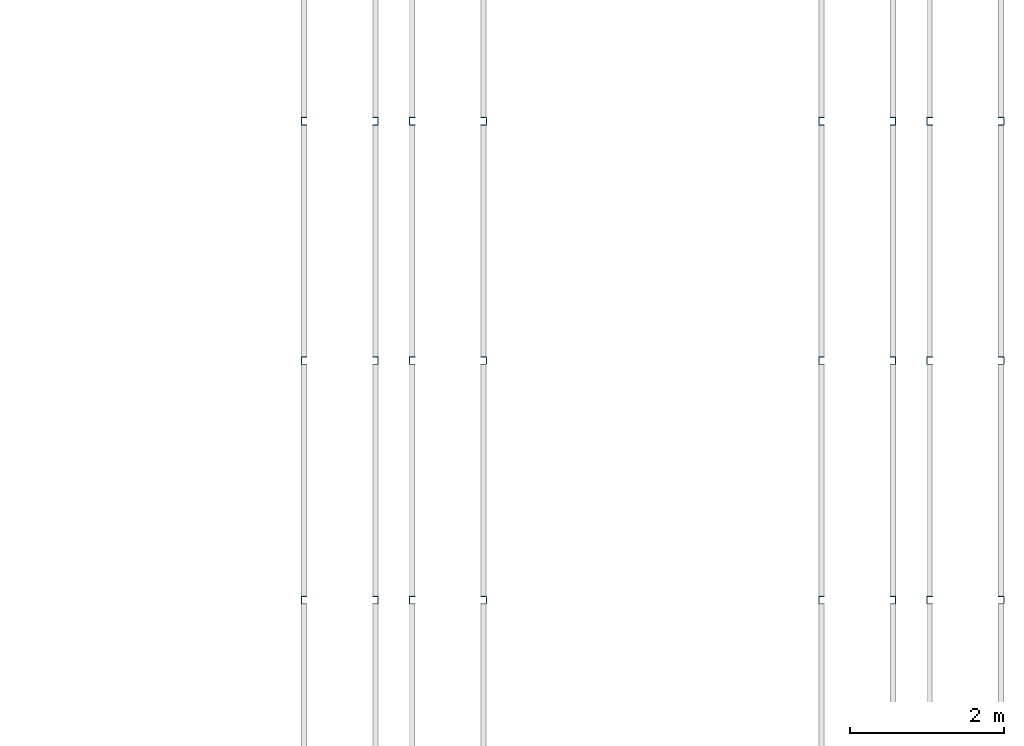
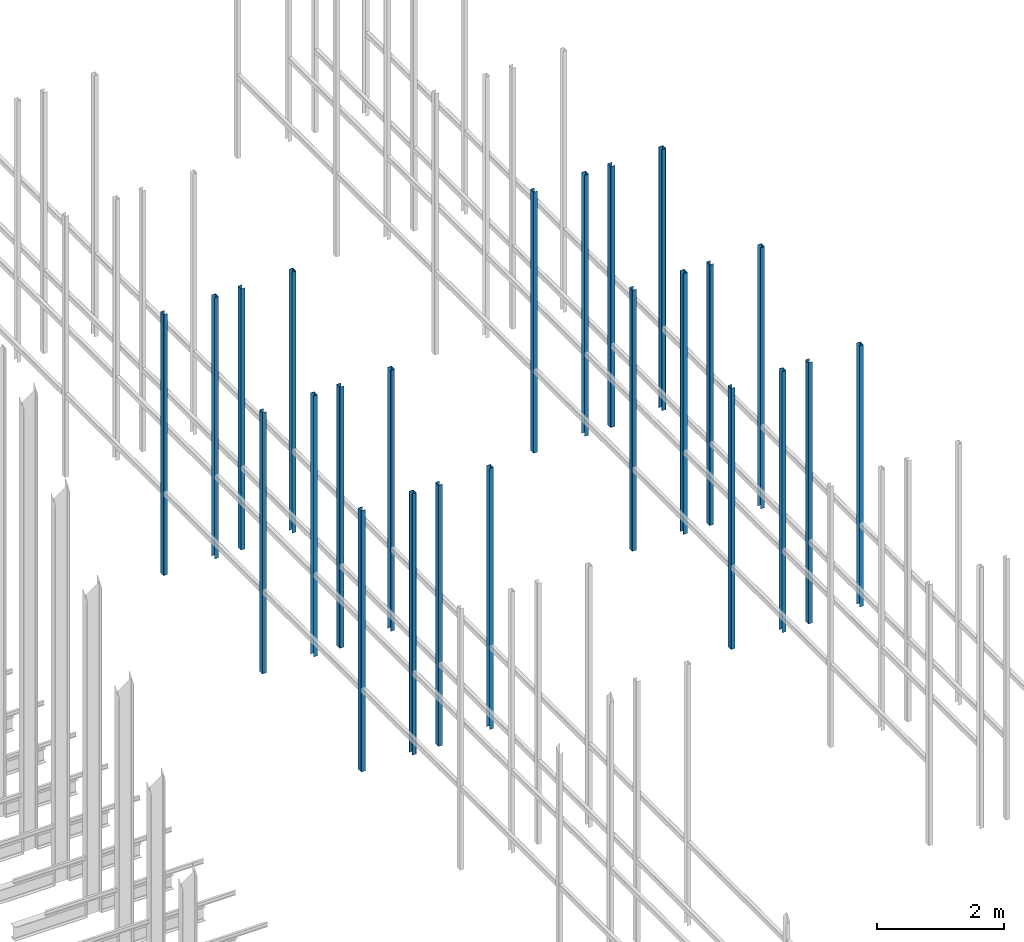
# One storey, part 61 of 302: 24 columns.
"""IFC2X3 building model written with IfcOpenShell, lengths in metres."""

from ifc_helpers import new_model, entity, si_unit, converted_unit, derived_unit, direction, frame, frame_2d, origin, place, context, subcontext, project, spatial, polyline, circle_curve, parameter, trimmed, segment, composite_curve, outline, extrude, source, transform, mapped, material, type_object, type_shapes, element, save


model = new_model("IFC2X3")

# Units and contexts
model_context = context("Model", 3, precision=1e-05, world=origin(), true_north=direction((6.12303176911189e-17, 1.0)))
body_context = subcontext(model_context, "Body", "Model", "MODEL_VIEW")
ifc_project = project(units=[si_unit("LENGTHUNIT", "METRE"), si_unit("AREAUNIT", "SQUARE_METRE"), si_unit("VOLUMEUNIT", "CUBIC_METRE"), converted_unit("PLANEANGLEUNIT", "DEGREE", entity("IfcRatioMeasure", 0.0174532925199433), si_unit("PLANEANGLEUNIT", "RADIAN"), dimensions=[0, 0, 0, 0, 0, 0, 0]), si_unit("MASSUNIT", "GRAM", prefix="KILO"), derived_unit("MASSDENSITYUNIT", [(si_unit("MASSUNIT", "GRAM", prefix="KILO"), 1), (si_unit("LENGTHUNIT", "METRE"), -3)]), derived_unit("MOMENTOFINERTIAUNIT", [(si_unit("LENGTHUNIT", "METRE"), 4)]), si_unit("TIMEUNIT", "SECOND"), si_unit("FREQUENCYUNIT", "HERTZ"), si_unit("THERMODYNAMICTEMPERATUREUNIT", "DEGREE_CELSIUS"), derived_unit("THERMALTRANSMITTANCEUNIT", [(si_unit("MASSUNIT", "GRAM", prefix="KILO"), 1), (si_unit("THERMODYNAMICTEMPERATUREUNIT", "KELVIN"), -1), (si_unit("TIMEUNIT", "SECOND"), -3)]), derived_unit("VOLUMETRICFLOWRATEUNIT", [(si_unit("LENGTHUNIT", "METRE"), 3), (si_unit("TIMEUNIT", "SECOND"), -1)]), si_unit("ELECTRICCURRENTUNIT", "AMPERE"), si_unit("ELECTRICVOLTAGEUNIT", "VOLT"), si_unit("POWERUNIT", "WATT"), si_unit("FORCEUNIT", "NEWTON", prefix="KILO"), si_unit("ILLUMINANCEUNIT", "LUX"), si_unit("LUMINOUSFLUXUNIT", "LUMEN"), si_unit("LUMINOUSINTENSITYUNIT", "CANDELA"), derived_unit("USERDEFINED", [(si_unit("MASSUNIT", "GRAM", prefix="KILO"), -1), (si_unit("LENGTHUNIT", "METRE"), -2), (si_unit("TIMEUNIT", "SECOND"), 3), (si_unit("LUMINOUSFLUXUNIT", "LUMEN"), 1)]), derived_unit("LINEARVELOCITYUNIT", [(si_unit("LENGTHUNIT", "METRE"), 1), (si_unit("TIMEUNIT", "SECOND"), -1)]), si_unit("PRESSUREUNIT", "PASCAL"), derived_unit("USERDEFINED", [(si_unit("LENGTHUNIT", "METRE"), -2), (si_unit("MASSUNIT", "GRAM", prefix="KILO"), 1), (si_unit("TIMEUNIT", "SECOND"), -2)]), derived_unit("LINEARFORCEUNIT", [(si_unit("MASSUNIT", "GRAM", prefix="KILO"), 1), (si_unit("LENGTHUNIT", "METRE"), 1), (si_unit("TIMEUNIT", "SECOND"), -2), (si_unit("LENGTHUNIT", "METRE"), -1)]), derived_unit("PLANARFORCEUNIT", [(si_unit("MASSUNIT", "GRAM", prefix="KILO"), 1), (si_unit("LENGTHUNIT", "METRE"), 1), (si_unit("TIMEUNIT", "SECOND"), -2), (si_unit("LENGTHUNIT", "METRE"), -2)])], contexts=[model_context])

# Site, building, storey
site_placement = place(None, origin())
site = spatial("IfcSite", under=ifc_project, at=site_placement, Name="Default", CompositionType="ELEMENT")
building_placement = place(site_placement, origin())
building = spatial("IfcBuilding", under=site, at=building_placement, CompositionType="ELEMENT")
storey_placement = place(building_placement, frame((0.0, 0.0, -1.3)))
storey = spatial("IfcBuildingStorey", under=building, at=storey_placement, Name="00_EG", CompositionType="ELEMENT", Elevation=-1.3)

# Columns
ifc_material = material(Name="Metall - Baustahl S235")
column_type_1 = type_object("IfcColumnType", Name="Leichter Stahl Schlossschrauben Stütze:C 100", PredefinedType="COLUMN", material=ifc_material)
shared_shape_1 = source(origin(), body_context, "Body", "SweptSolid", [
    extrude(outline(composite_curve([segment(polyline([(-0.0469749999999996, -0.0499999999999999), (0.0214500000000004, -0.0499999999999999)]), True, "CONTINUOUS"), segment(trimmed(circle_curve(frame_2d((0.0214500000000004, -0.0434249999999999), x_axis=(0.0, -1.0)), 0.00657500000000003), [parameter(0.0)], [parameter(89.9999999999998)], True, "PARAMETER"), True, "CONTINUOUS"), segment(polyline([(0.0280250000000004, -0.0434249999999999), (0.0280250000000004, 0.0434250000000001)]), True, "CONTINUOUS"), segment(trimmed(circle_curve(frame_2d((0.0214500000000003, 0.0434250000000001), x_axis=(1.0, 0.0)), 0.0065750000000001), [parameter(0.0)], [parameter(89.9999999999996)], True, "PARAMETER"), True, "CONTINUOUS"), segment(polyline([(0.0214500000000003, 0.0500000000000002), (-0.0469750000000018, 0.0500000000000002)]), True, "CONTINUOUS"), segment(polyline([(-0.0469750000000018, 0.0500000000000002), (-0.0469750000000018, 0.0450000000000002)]), True, "CONTINUOUS"), segment(polyline([(-0.0469750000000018, 0.0450000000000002), (0.0214500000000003, 0.0450000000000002)]), True, "CONTINUOUS"), segment(trimmed(circle_curve(frame_2d((0.0214500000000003, 0.0434249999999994), x_axis=(0.0, 1.0)), 0.00157500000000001), [parameter(269.999999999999)], [parameter(0.0)], True, "PARAMETER"), False, "CONTINUOUS"), segment(polyline([(0.0230250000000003, 0.0434249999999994), (0.0230250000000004, -0.0434249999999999)]), True, "CONTINUOUS"), segment(trimmed(circle_curve(frame_2d((0.0214500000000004, -0.0434249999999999), x_axis=(1.0, 0.0)), 0.00157500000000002), [parameter(270.0)], [parameter(0.0)], True, "PARAMETER"), False, "CONTINUOUS"), segment(polyline([(0.0214500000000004, -0.0449999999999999), (-0.0469749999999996, -0.0449999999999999)]), True, "CONTINUOUS"), segment(polyline([(-0.0469749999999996, -0.0449999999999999), (-0.0469749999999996, -0.0499999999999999)]), True, "CONTINUOUS")], self_intersect=False)), frame((0.0499999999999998, 0.0280250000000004, -0.0300000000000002), z_axis=(0.0, 0.0, 1.0), x_axis=(0.0, -1.0, 0.0)), (0.0, 0.0, 1.0), 5.0),
])
type_shapes(column_type_1, [shared_shape_1])
for number, where, z_axis, x_axis in (
    (1, (-159.193311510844, 48.3480889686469, 1.3), (0.0, 0.0, 1.0), (0.0, -1.0, 0.0)),
    (2, (-157.793311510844, 48.3480889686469, 1.3), (0.0, 0.0, 1.0), (0.0, -1.0, 0.0)),
    (3, (-159.193311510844, 51.4480889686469, 1.3), (0.0, 0.0, 1.0), (0.0, -1.0, 0.0)),
    (4, (-157.793311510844, 51.4480889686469, 1.3), (0.0, 0.0, 1.0), (0.0, -1.0, 0.0)),
    (5, (-159.193311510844, 54.5480889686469, 1.3), (0.0, 0.0, 1.0), (0.0, -1.0, 0.0)),
    (6, (-157.793311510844, 54.5480889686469, 1.3), (0.0, 0.0, 1.0), (0.0, -1.0, 0.0)),
    (7, (-152.493311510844, 48.3480889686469, 1.3), (0.0, 0.0, 1.0), (0.0, -1.0, 0.0)),
    (8, (-151.093311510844, 48.3480889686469, 1.3), (0.0, 0.0, 1.0), (0.0, -1.0, 0.0)),
    (9, (-152.493311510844, 51.4480889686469, 1.3), (0.0, 0.0, 1.0), (0.0, -1.0, 0.0)),
    (10, (-151.093311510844, 51.4480889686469, 1.3), (0.0, 0.0, 1.0), (0.0, -1.0, 0.0)),
    (11, (-152.493311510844, 54.5480889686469, 1.3), (0.0, 0.0, 1.0), (0.0, -1.0, 0.0)),
    (12, (-151.093311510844, 54.5480889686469, 1.3), (0.0, 0.0, 1.0), (0.0, -1.0, 0.0)),
):
    element("IfcColumn", number, at=place(storey_placement, frame(where, z_axis=z_axis, x_axis=x_axis)), inside=storey, type_object=column_type_1, material=ifc_material, Name="Leichter Stahl Schlossschrauben Stütze:C 100", ObjectType="Leichter Stahl Schlossschrauben Stütze:C 100", context=body_context, shape_type="MappedRepresentation", body=[
        mapped(shared_shape_1, transform((0.0, 0.0, 0.0), scale=1.0)),
    ])
column_type_2 = type_object("IfcColumnType", Name="Leichter Stahl Schlossschrauben Stütze:C 100", PredefinedType="COLUMN", material=ifc_material)
shared_shape_2 = source(origin(), body_context, "Body", "SweptSolid", [
    extrude(outline(composite_curve([segment(polyline([(-0.0214500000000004, -0.0499999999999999), (0.0469749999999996, -0.0499999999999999)]), True, "CONTINUOUS"), segment(polyline([(0.0469749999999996, -0.0499999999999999), (0.0469749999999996, -0.0449999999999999)]), True, "CONTINUOUS"), segment(polyline([(0.0469749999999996, -0.0449999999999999), (-0.0214500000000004, -0.045)]), True, "CONTINUOUS"), segment(trimmed(circle_curve(frame_2d((-0.0214500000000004, -0.043425), x_axis=(0.0, -1.0)), 0.00157500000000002), [parameter(270.0)], [parameter(0.0)], True, "PARAMETER"), False, "CONTINUOUS"), segment(polyline([(-0.0230250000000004, -0.0434249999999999), (-0.0230250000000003, 0.0434249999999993)]), True, "CONTINUOUS"), segment(trimmed(circle_curve(frame_2d((-0.0214500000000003, 0.0434249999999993), x_axis=(-1.0, 0.0)), 0.00157500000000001), [parameter(269.999999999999)], [parameter(0.0)], True, "PARAMETER"), False, "CONTINUOUS"), segment(polyline([(-0.0214500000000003, 0.0450000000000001), (0.0469750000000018, 0.0450000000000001)]), True, "CONTINUOUS"), segment(polyline([(0.0469750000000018, 0.0450000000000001), (0.0469750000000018, 0.0500000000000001)]), True, "CONTINUOUS"), segment(polyline([(0.0469750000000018, 0.0500000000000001), (-0.0214500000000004, 0.0500000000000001)]), True, "CONTINUOUS"), segment(trimmed(circle_curve(frame_2d((-0.0214500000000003, 0.043425), x_axis=(0.0, 1.0)), 0.0065750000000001), [parameter(0.0)], [parameter(89.9999999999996)], True, "PARAMETER"), True, "CONTINUOUS"), segment(polyline([(-0.0280250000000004, 0.043425), (-0.0280250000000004, -0.043425)]), True, "CONTINUOUS"), segment(trimmed(circle_curve(frame_2d((-0.0214500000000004, -0.0434249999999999), x_axis=(-1.0, 0.0)), 0.00657500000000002), [parameter(0.0)], [parameter(89.9999999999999)], True, "PARAMETER"), True, "CONTINUOUS")], self_intersect=False)), frame((0.0499999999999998, -0.0280250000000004, -0.0300000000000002), z_axis=(0.0, 0.0, 1.0), x_axis=(0.0, -1.0, 0.0)), (0.0, 0.0, 1.0), 5.0),
])
type_shapes(column_type_2, [shared_shape_2])
for number, where, z_axis, x_axis in (
    (13, (-158.193311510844, 48.3480889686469, 1.3), (0.0, 0.0, 1.0), (0.0, -1.0, 0.0)),
    (14, (-156.793311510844, 48.3480889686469, 1.3), (0.0, 0.0, 1.0), (0.0, -1.0, 0.0)),
    (15, (-158.193311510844, 51.4480889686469, 1.3), (0.0, 0.0, 1.0), (0.0, -1.0, 0.0)),
    (16, (-156.793311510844, 51.4480889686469, 1.3), (0.0, 0.0, 1.0), (0.0, -1.0, 0.0)),
    (17, (-158.193311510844, 54.5480889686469, 1.3), (0.0, 0.0, 1.0), (0.0, -1.0, 0.0)),
    (18, (-156.793311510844, 54.5480889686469, 1.3), (0.0, 0.0, 1.0), (0.0, -1.0, 0.0)),
    (19, (-151.493311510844, 48.3480889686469, 1.3), (0.0, 0.0, 1.0), (0.0, -1.0, 0.0)),
    (20, (-150.093311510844, 48.3480889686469, 1.3), (0.0, 0.0, 1.0), (0.0, -1.0, 0.0)),
    (21, (-151.493311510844, 51.4480889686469, 1.3), (0.0, 0.0, 1.0), (0.0, -1.0, 0.0)),
    (22, (-150.093311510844, 51.4480889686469, 1.3), (0.0, 0.0, 1.0), (0.0, -1.0, 0.0)),
    (23, (-151.493311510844, 54.5480889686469, 1.3), (0.0, 0.0, 1.0), (0.0, -1.0, 0.0)),
    (24, (-150.093311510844, 54.5480889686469, 1.3), (0.0, 0.0, 1.0), (0.0, -1.0, 0.0)),
):
    element("IfcColumn", number, at=place(storey_placement, frame(where, z_axis=z_axis, x_axis=x_axis)), inside=storey, type_object=column_type_2, material=ifc_material, Name="Leichter Stahl Schlossschrauben Stütze:C 100", ObjectType="Leichter Stahl Schlossschrauben Stütze:C 100", context=body_context, shape_type="MappedRepresentation", body=[
        mapped(shared_shape_2, transform((0.0, 0.0, 0.0), scale=1.0)),
    ])

save(model, "model.ifc")
